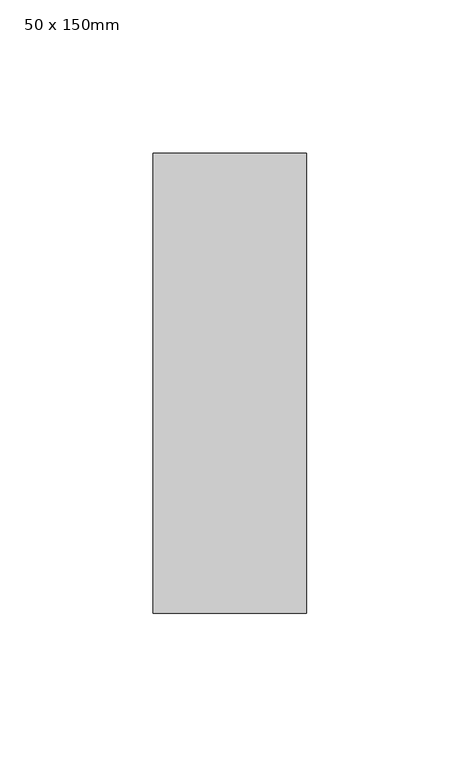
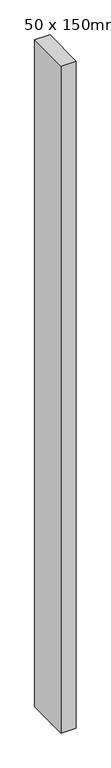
"""IFC4 building model written with IfcOpenShell, lengths in millimetres: member geometry, 矩形竖梃 : 50 x 150mm."""

from ifc_helpers import new_model, si_unit, frame, origin, place, context, project, spatial, polyline, outline, extrude, source, transform, mapped, element, save


def member_50_x_150mm_b3830fd3(model_context):
    return source(origin(), model_context, "Body", "SweptSolid", [
        extrude(outline(polyline([(25.0, 75.0), (25.0, -75.0), (-25.0, -75.0), (-25.0, 75.0), (25.0, 75.0)])), frame((0.0, 0.0, -2325.0), z_axis=(0.0, 0.0, 1.0), x_axis=(1.0, 0.0, 0.0)), (0.0, 0.0, 1.0), 2325.0),
    ])


if __name__ == "__main__":
    model = new_model("IFC4")
    model_context = context("Model", 3, world=origin())
    ifc_project = project(units=[si_unit("LENGTHUNIT", "METRE", prefix="MILLI")], contexts=[model_context])
    site = spatial("IfcSite", under=ifc_project)
    building = spatial("IfcBuilding", under=site)
    placement = place(None, origin())
    member_50_x_150mm_shape = member_50_x_150mm_b3830fd3(model_context)
    element("IfcMember", 1, ObjectType="矩形竖梃 : 50 x 150mm", at=placement, inside=building, context=model_context, shape_type="MappedRepresentation", body=[
        mapped(member_50_x_150mm_shape, transform((0.0, 0.0, 0.0), x_axis=(1.0, 0.0, 0.0), y_axis=(0.0, 1.0, 0.0), z_axis=(0.0, 0.0, 1.0))),
    ])
    save(model, "model.ifc")
